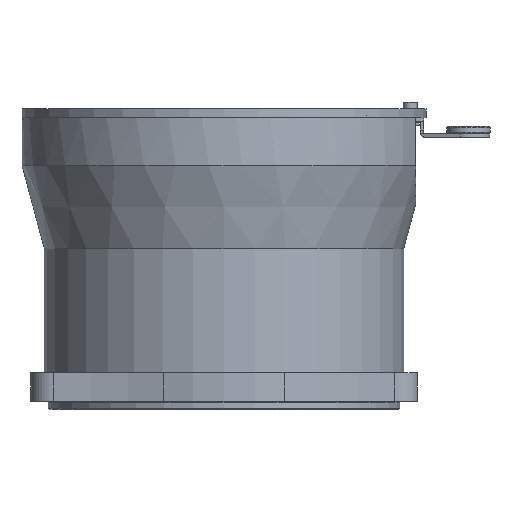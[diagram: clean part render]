
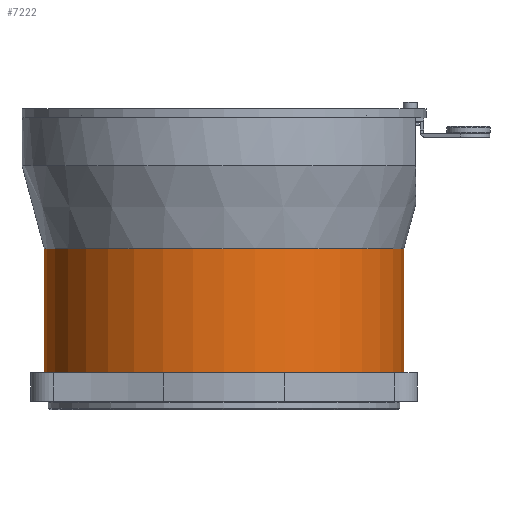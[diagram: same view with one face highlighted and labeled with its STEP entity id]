
A CAD part, front view. The second image highlights one B-rep face of the part: STEP entity #7222.
In plain terms, the highlighted cylindrical face has radius 25 mm (diameter 50 mm), a partial arc.
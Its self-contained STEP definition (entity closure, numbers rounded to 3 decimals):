
#615 = CARTESIAN_POINT ( 'NONE',  ( -25., 0., 21.163 ) ) ;
#1483 = VERTEX_POINT ( 'NONE', #11940 ) ;
#1543 = DIRECTION ( 'NONE',  ( 0., 0., 1. ) ) ;
#1621 = VECTOR ( 'NONE', #14083, 1000. ) ;
#1763 = EDGE_CURVE ( 'NONE', #5267, #1483, #4527, .T. ) ;
#2390 = ORIENTED_EDGE ( 'NONE', *, *, #3468, .F. ) ;
#2718 = CARTESIAN_POINT ( 'NONE',  ( 0., 0., 21.2 ) ) ;
#2973 = CARTESIAN_POINT ( 'NONE',  ( -25., 0., 4. ) ) ;
#2996 = CYLINDRICAL_SURFACE ( 'NONE', #11334, 25. ) ;
#3468 = EDGE_CURVE ( 'NONE', #11730, #5267, #8315, .T. ) ;
#3510 = FACE_OUTER_BOUND ( 'NONE', #4957, .T. ) ;
#3715 = DIRECTION ( 'NONE',  ( 0., 0., -1. ) ) ;
#3762 = DIRECTION ( 'NONE',  ( -1., 0., 0. ) ) ;
#3889 = CARTESIAN_POINT ( 'NONE',  ( 25., 0., 4. ) ) ;
#4101 = LINE ( 'NONE', #12635, #8404 ) ;
#4465 = EDGE_CURVE ( 'NONE', #11730, #5293, #4101, .T. ) ;
#4527 = LINE ( 'NONE', #615, #1621 ) ;
#4957 = EDGE_LOOP ( 'NONE', ( #7617, #2390, #6096, #9623 ) ) ;
#5267 = VERTEX_POINT ( 'NONE', #2973 ) ;
#5293 = VERTEX_POINT ( 'NONE', #14260 ) ;
#6096 = ORIENTED_EDGE ( 'NONE', *, *, #4465, .T. ) ;
#7044 = DIRECTION ( 'NONE',  ( 1., 0., 0. ) ) ;
#7099 = AXIS2_PLACEMENT_3D ( 'NONE', #2718, #11614, #7044 ) ;
#7222 = ADVANCED_FACE ( 'NONE', ( #3510 ), #2996, .T. ) ;
#7617 = ORIENTED_EDGE ( 'NONE', *, *, #1763, .F. ) ;
#8315 = CIRCLE ( 'NONE', #9058, 25. ) ;
#8404 = VECTOR ( 'NONE', #11493, 1000. ) ;
#9058 = AXIS2_PLACEMENT_3D ( 'NONE', #12477, #3715, #3762 ) ;
#9623 = ORIENTED_EDGE ( 'NONE', *, *, #14267, .F. ) ;
#9642 = CIRCLE ( 'NONE', #7099, 25. ) ;
#11334 = AXIS2_PLACEMENT_3D ( 'NONE', #13991, #1543, #11692 ) ;
#11493 = DIRECTION ( 'NONE',  ( 0., 0., 1. ) ) ;
#11614 = DIRECTION ( 'NONE',  ( 0., 0., 1. ) ) ;
#11692 = DIRECTION ( 'NONE',  ( 1., 0., 0. ) ) ;
#11730 = VERTEX_POINT ( 'NONE', #3889 ) ;
#11940 = CARTESIAN_POINT ( 'NONE',  ( -25., 0., 21.2 ) ) ;
#12477 = CARTESIAN_POINT ( 'NONE',  ( 0., 0., 4. ) ) ;
#12635 = CARTESIAN_POINT ( 'NONE',  ( 25., 0., 21.163 ) ) ;
#13991 = CARTESIAN_POINT ( 'NONE',  ( 0., 0., 21.163 ) ) ;
#14083 = DIRECTION ( 'NONE',  ( 0., 0., 1. ) ) ;
#14260 = CARTESIAN_POINT ( 'NONE',  ( 25., 0., 21.2 ) ) ;
#14267 = EDGE_CURVE ( 'NONE', #1483, #5293, #9642, .T. ) ;
